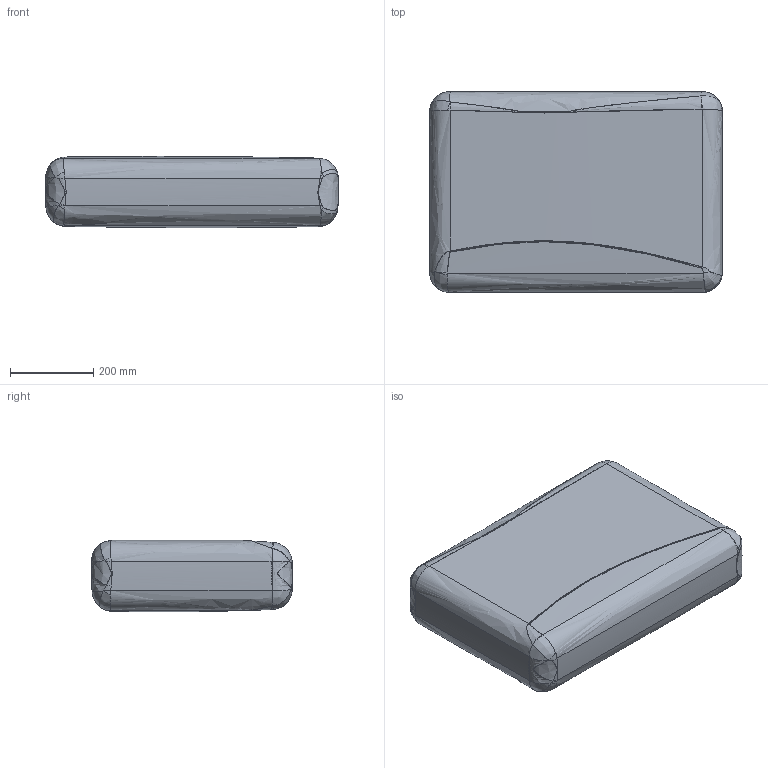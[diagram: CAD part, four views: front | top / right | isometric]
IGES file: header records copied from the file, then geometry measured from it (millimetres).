
Start section: SolidWorks IGES file using NURBS representation for surfaces
Global section: file name: D:\VICCARBE\PRODUCTOS\19-MASS\04-MODELADOS (PLANOS)\SOLIDWORKS\PIEZAS\Cushions\01-IGES\VICCARBE_Mass_cushion_70.IGS; native system: SolidWorks 2009; preprocessor: SolidWorks 2009; author: RUBEN; date: 110908.162943; units: millimetre
Bounding box: 704.23 x 483 x 171.12 mm (x, y, z)
Surface area: 952594.2 mm2 (no closed solid volume)
Topology: 0 solids, 0 shells, 95 faces, 1299 edges, 1299 vertices
Faces by surface type: bspline 95
